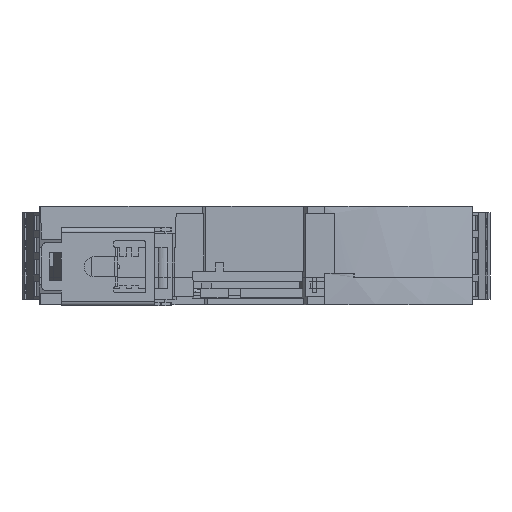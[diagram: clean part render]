
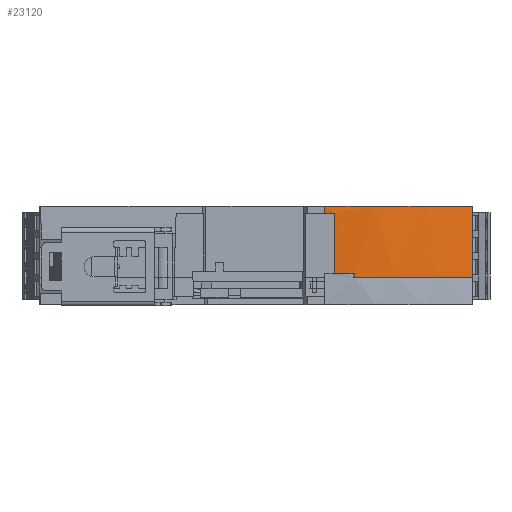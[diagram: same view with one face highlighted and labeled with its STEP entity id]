
A CAD part, front view. The second image highlights one B-rep face of the part: STEP entity #23120.
In plain terms, the highlighted cylindrical face has radius 76.608 mm (diameter 153.217 mm), a partial arc.
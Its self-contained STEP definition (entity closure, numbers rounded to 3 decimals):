
#4460=CARTESIAN_POINT('',(16.428,96.854,1.62));
#4461=DIRECTION('',(0.,0.,-1.));
#4462=DIRECTION('',(0.438,-0.899,0.));
#4463=AXIS2_PLACEMENT_3D('',#4460,#4461,#4462);
#8573=CARTESIAN_POINT('',(16.428,96.854,-14.78));
#8574=DIRECTION('',(0.,0.,1.));
#8575=DIRECTION('',(0.081,-0.997,0.));
#8576=AXIS2_PLACEMENT_3D('',#8573,#8574,#8575);
#8939=DIRECTION('',(0.,0.,1.));
#8940=VECTOR('',#8939,13.88);
#8941=CARTESIAN_POINT('',(18.154,20.265,-13.88));
#8942=LINE('',#8941,#8940);
#8946=DIRECTION('',(0.,0.,1.));
#8947=VECTOR('',#8946,1.62);
#8948=CARTESIAN_POINT('',(15.823,20.248,0.));
#8949=LINE('',#8948,#8947);
#8953=DIRECTION('',(0.,0.,-1.));
#8954=VECTOR('',#8953,16.4);
#8955=CARTESIAN_POINT('',(49.999,27.993,1.62));
#8956=LINE('',#8955,#8954);
#8960=CARTESIAN_POINT('',(22.652,20.499,-14.78));
#8961=CARTESIAN_POINT('',(22.65,20.499,-14.48));
#8962=CARTESIAN_POINT('',(22.647,20.499,-14.18));
#8963=CARTESIAN_POINT('',(22.644,20.499,-13.88));
#8975=CARTESIAN_POINT('',(16.428,96.854,-13.88));
#8976=DIRECTION('',(0.,0.,1.));
#8977=DIRECTION('',(0.023,-1.,0.));
#8978=AXIS2_PLACEMENT_3D('',#8975,#8976,#8977);
#13623=CARTESIAN_POINT('',(16.428,96.854,0.));
#13624=DIRECTION('',(0.,0.,1.));
#13625=DIRECTION('',(-0.008,-1.,0.));
#13626=AXIS2_PLACEMENT_3D('',#13623,#13624,#13625);
#17116=CARTESIAN_POINT('',(49.999,27.993,1.62));
#17117=VERTEX_POINT('',#17116);
#17118=CARTESIAN_POINT('',(15.823,20.248,1.62));
#17119=VERTEX_POINT('',#17118);
#17350=CARTESIAN_POINT('',(15.823,20.248,0.));
#17352=VERTEX_POINT('',#17350);
#17353=CARTESIAN_POINT('',(18.154,20.265,0.));
#17354=VERTEX_POINT('',#17353);
#17359=CARTESIAN_POINT('',(18.154,20.265,-13.88));
#17360=VERTEX_POINT('',#17359);
#17361=CARTESIAN_POINT('',(49.999,27.993,-14.78));
#17362=VERTEX_POINT('',#17361);
#17363=CARTESIAN_POINT('',(22.652,20.499,-14.78));
#17364=VERTEX_POINT('',#17363);
#17365=VERTEX_POINT('',#8963);
#23100=CARTESIAN_POINT('',(16.428,96.854,-14.78));
#23101=DIRECTION('',(0.,0.,-1.));
#23102=DIRECTION('',(-1.,0.,0.));
#23103=AXIS2_PLACEMENT_3D('',#23100,#23101,#23102);
#23104=CYLINDRICAL_SURFACE('',#23103,76.608);
#23106=ORIENTED_EDGE('',*,*,#23105,.T.);
#23108=ORIENTED_EDGE('',*,*,#23107,.F.);
#23110=ORIENTED_EDGE('',*,*,#23109,.T.);
#23111=ORIENTED_EDGE('',*,*,#19599,.F.);
#23112=ORIENTED_EDGE('',*,*,#23088,.T.);
#23113=ORIENTED_EDGE('',*,*,#22760,.F.);
#23115=ORIENTED_EDGE('',*,*,#23114,.T.);
#23117=ORIENTED_EDGE('',*,*,#23116,.F.);
#23118=EDGE_LOOP('',(#23106,#23108,#23110,#23111,#23112,#23113,#23115,#23117));
#23119=FACE_OUTER_BOUND('',#23118,.F.);
#23120=ADVANCED_FACE('',(#23119),#23104,.T.);
#4464=CIRCLE('',#4463,76.608);
#8577=CIRCLE('',#8576,76.608);
#8964=B_SPLINE_CURVE_WITH_KNOTS('',3,(#8960,#8961,#8962,#8963),.UNSPECIFIED.,
.F.,.F.,(4,4),(0.,1.),.UNSPECIFIED.);
#8979=CIRCLE('',#8978,76.608);
#13627=CIRCLE('',#13626,76.608);
#19599=EDGE_CURVE('',#17117,#17119,#4464,.T.);
#22760=EDGE_CURVE('',#17364,#17362,#8577,.T.);
#23088=EDGE_CURVE('',#17117,#17362,#8956,.T.);
#23105=EDGE_CURVE('',#17360,#17354,#8942,.T.);
#23107=EDGE_CURVE('',#17352,#17354,#13627,.T.);
#23109=EDGE_CURVE('',#17352,#17119,#8949,.T.);
#23114=EDGE_CURVE('',#17364,#17365,#8964,.T.);
#23116=EDGE_CURVE('',#17360,#17365,#8979,.T.);
